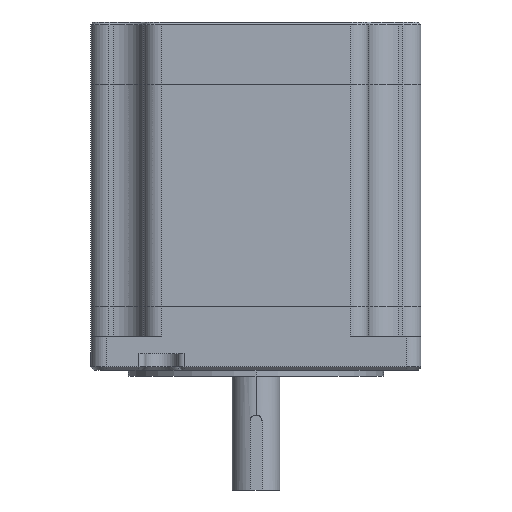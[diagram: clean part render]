
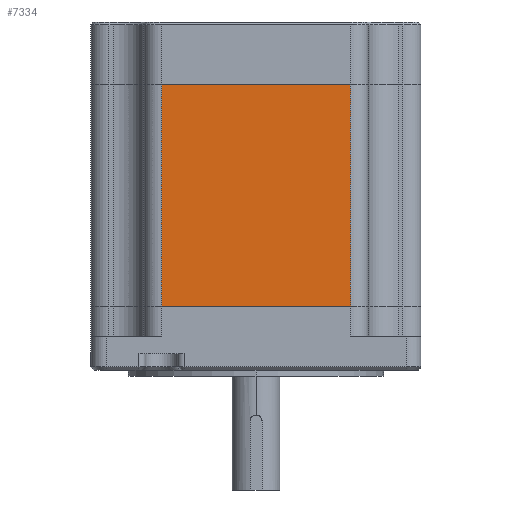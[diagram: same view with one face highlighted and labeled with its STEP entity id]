
A CAD part, left-side view. The second image highlights one B-rep face of the part: STEP entity #7334.
In plain terms, the highlighted planar face has unit normal (-1, 0, 0).
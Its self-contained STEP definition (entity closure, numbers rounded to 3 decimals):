
#407=DIRECTION('',(0.,0.,1.));
#408=VECTOR('',#407,74.);
#409=CARTESIAN_POINT('',(135.741,147.715,21.));
#410=LINE('',#409,#408);
#420=DIRECTION('',(0.,-1.,0.));
#421=VECTOR('',#420,63.);
#422=CARTESIAN_POINT('',(135.741,147.715,21.));
#423=LINE('',#422,#421);
#424=DIRECTION('',(0.,1.,0.));
#425=VECTOR('',#424,63.);
#426=CARTESIAN_POINT('',(135.741,84.715,95.));
#427=LINE('',#426,#425);
#442=DIRECTION('',(0.,0.,-1.));
#443=VECTOR('',#442,74.);
#444=CARTESIAN_POINT('',(135.741,84.715,95.));
#445=LINE('',#444,#443);
#5550=CARTESIAN_POINT('',(135.741,147.715,95.));
#5552=VERTEX_POINT('',#5550);
#5556=CARTESIAN_POINT('',(135.741,147.715,21.));
#5557=VERTEX_POINT('',#5556);
#5563=CARTESIAN_POINT('',(135.741,84.715,95.));
#5565=VERTEX_POINT('',#5563);
#5566=CARTESIAN_POINT('',(135.741,84.715,21.));
#5567=VERTEX_POINT('',#5566);
#7321=CARTESIAN_POINT('',(135.741,116.215,-14.5));
#7322=DIRECTION('',(1.,0.,0.));
#7323=DIRECTION('',(0.,0.,1.));
#7324=AXIS2_PLACEMENT_3D('',#7321,#7322,#7323);
#7325=PLANE('',#7324);
#7327=ORIENTED_EDGE('',*,*,#7326,.T.);
#7329=ORIENTED_EDGE('',*,*,#7328,.F.);
#7330=ORIENTED_EDGE('',*,*,#7313,.T.);
#7331=ORIENTED_EDGE('',*,*,#6923,.F.);
#7332=EDGE_LOOP('',(#7327,#7329,#7330,#7331));
#7333=FACE_OUTER_BOUND('',#7332,.F.);
#7334=ADVANCED_FACE('',(#7333),#7325,.F.);
#6923=EDGE_CURVE('',#5565,#5552,#427,.T.);
#7313=EDGE_CURVE('',#5557,#5552,#410,.T.);
#7326=EDGE_CURVE('',#5565,#5567,#445,.T.);
#7328=EDGE_CURVE('',#5557,#5567,#423,.T.);
